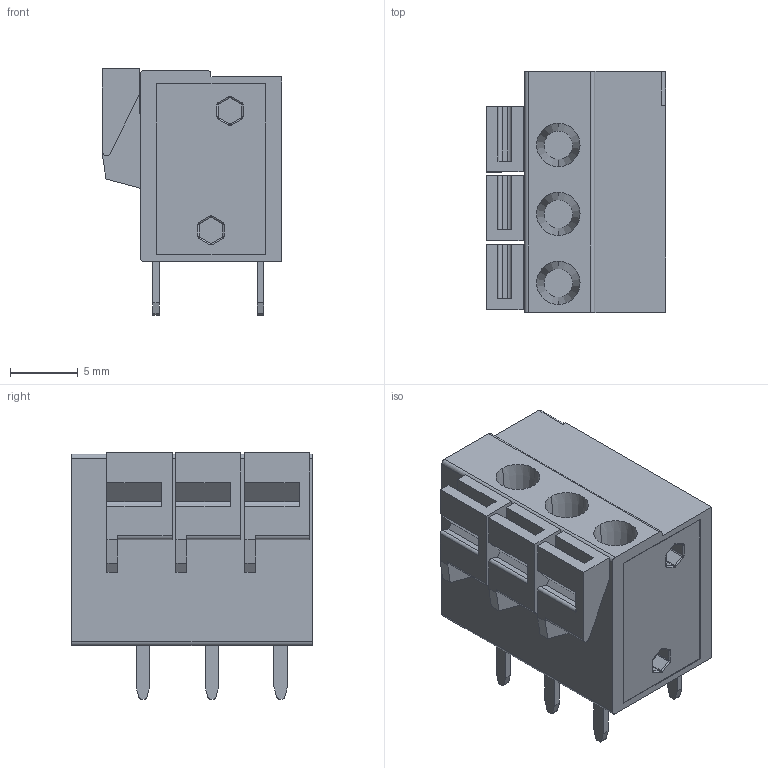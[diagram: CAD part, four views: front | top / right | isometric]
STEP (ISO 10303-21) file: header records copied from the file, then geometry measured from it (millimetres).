
FILE_DESCRIPTION(('STEP AP214'),'1');
FILE_NAME('C:/TPO v2/SharedFS/Outgoing/20020302h031b01lf.stp','2015-12-02T12:31:59',('TraceParts'),('TraceParts S.A.'),'Spatial InterOp 3D',' ',' ');
FILE_SCHEMA(('automotive_design'));
Length unit declared in the file: millimetre
Products named in the file (1): 20020302-H03
Bounding box: 13.2 x 17.74 x 18.15 mm (x, y, z)
Volume: 2483.4 mm3; surface area: 1863.4 mm2
Topology: 1 solids, 1 shells, 217 faces, 575 edges, 376 vertices
Faces by surface type: plane 139, cylinder 60, torus 12, cone 6
Entity records: 6713 total; most frequent: CARTESIAN_POINT 1169, DIRECTION 1156, ORIENTED_EDGE 1150, EDGE_CURVE 575, LINE 430, VECTOR 430, VERTEX_POINT 376, AXIS2_PLACEMENT_3D 363
